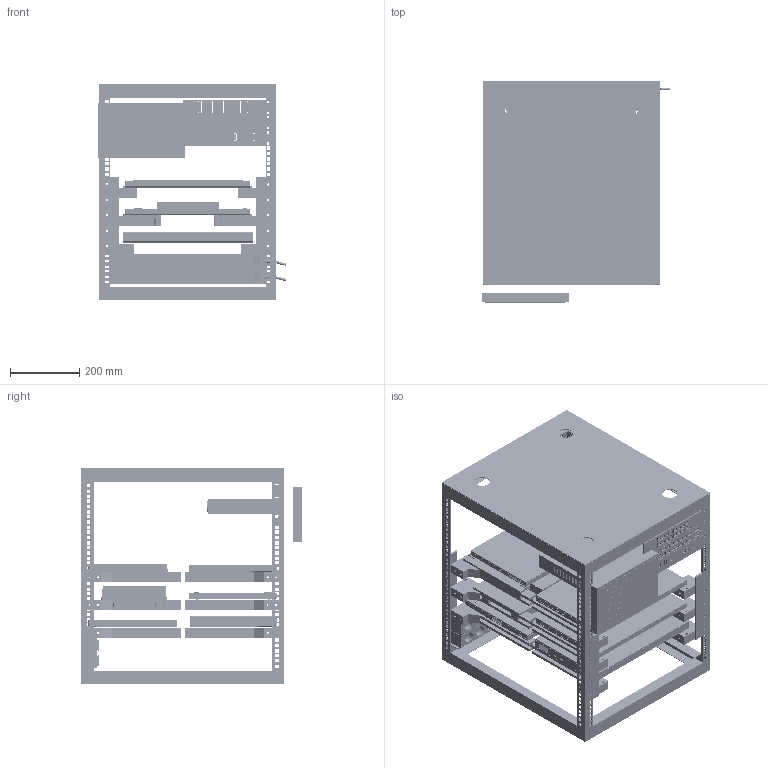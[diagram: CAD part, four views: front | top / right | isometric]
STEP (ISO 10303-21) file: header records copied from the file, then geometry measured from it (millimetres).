
FILE_DESCRIPTION(('Open CASCADE Model'),'2;1');
FILE_NAME('Open CASCADE Shape Model','2026-10-07T15:44:55',('Author'),( 'Open CASCADE'),'Open CASCADE STEP processor 7.8','Open CASCADE 7.8' ,'Unknown');
FILE_SCHEMA(('AUTOMOTIVE_DESIGN { 1 0 10303 214 1 1 1 1 }'));
Length unit declared in the file: millimetre
Products named in the file (207): CITADEL_complete_visual_reference; front_left_12U_post; front_right_12U_post; rear_left_12U_post; rear_right_12U_post; front_bottom_crossbeam; rear_bottom_crossbeam; left_bottom_depth_beam; right_bottom_depth_beam; front_top_crossbeam; rear_top_crossbeam; left_top_depth_beam; right_top_depth_beam; top_cover_with_four_cable_openings; front_left_upright; front_right_upright; rear_left_upright; rear_right_upright; p15_left_arm; p15_right_arm; p15_chassis; p15_power_socket_sleeve; p15_closed_lid; p15_lid_gasket; p15_hinge_-162.7; p15_hinge_end_-162.7; p15_hinge_132.7; p15_hinge_end_132.7; p15_front_lip; p15_lid_signature; p15_signature_dot; p15_lenovo_badge; p15_lenovo_lettering; p15_recessed_screws; p15_port_interiors; p15_port_sleeves; p15_connector_tongues; p15_connector_contacts; p15_rubber_feet; p16g2_left_arm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
Assembly tree (206 placements, depth 2):
  CITADEL_complete_visual_reference
    front_left_12U_post
    front_right_12U_post
    rear_left_12U_post
    rear_right_12U_post
    front_bottom_crossbeam
    rear_bottom_crossbeam
    left_bottom_depth_beam
    right_bottom_depth_beam
    front_top_crossbeam
    rear_top_crossbeam
    left_top_depth_beam
    right_top_depth_beam
    top_cover_with_four_cable_openings
    front_left_upright
    front_right_upright
    rear_left_upright
    rear_right_upright
    p15_left_arm
    p15_right_arm
    p15_chassis
    p15_power_socket_sleeve
    p15_closed_lid
    p15_lid_gasket
    p15_hinge_-162.7
    p15_hinge_end_-162.7
    p15_hinge_132.7
    p15_hinge_end_132.7
    p15_front_lip
    p15_lid_signature
    p15_signature_dot
    p15_lenovo_badge
    p15_lenovo_lettering
    p15_recessed_screws
    p15_port_interiors
    p15_port_sleeves
    p15_connector_tongues
    p15_connector_contacts
    p15_rubber_feet
    p16g2_left_arm
    p16g2_right_arm
    p16g2_chassis
    p16g2_closed_lid
    p16g2_lid_gasket
    p16g2_hinge_-155.99
    p16g2_hinge_end_-155.99
    p16g2_hinge_125.99000000000001
    p16g2_hinge_end_125.99000000000001
    p16g2_front_lip
    p16g2_lid_signature
    p16g2_signature_dot
    p16g2_lenovo_badge
    p16g2_lenovo_lettering
    p16g2_recessed_screws
    p16g2_port_interiors
    p16g2_port_sleeves
    p16g2_connector_tongues
    p16g2_connector_contacts
    p16g2_rubber_feet
    p16g2b_left_arm
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Bounding box: 543.08 x 638 x 625 mm (x, y, z)
Volume: 23368443.9 mm3; surface area: 5859403.4 mm2
Topology: 1445 solids, 1447 shells, 19222 faces, 45712 edges, 30422 vertices
Faces by surface type: plane 16348, extrusion 1817, cylinder 1007, bspline 30, cone 20
Full cylindrical faces by diameter (mm): 1.2 x1, 1.3 x1, 1.8 x6, 2 x114, 2.85 x7, 3.1 x7, 3.4 x72, 3.5 x30, 4 x2, 4.4 x33, 4.8 x32, 5.6 x48, 6 x4, 6.8 x24, 7 x8, 7.4 x8, 8.1 x1, 8.6 x3, 9 x2, 9.2 x13, 10 x4, 10.6 x2, 16.6 x2, 18 x2, 24.6 x2, 26 x2, 28.6 x2, 29.8 x2, 30 x2, 30.6 x2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
Entity records: 1162526 total; most frequent: CARTESIAN_POINT 216312, DIRECTION 166769, VECTOR 125860, LINE 124043, ORIENTED_EDGE 91424, PCURVE 91424, DEFINITIONAL_REPRESENTATION 91424, EDGE_CURVE 45712
